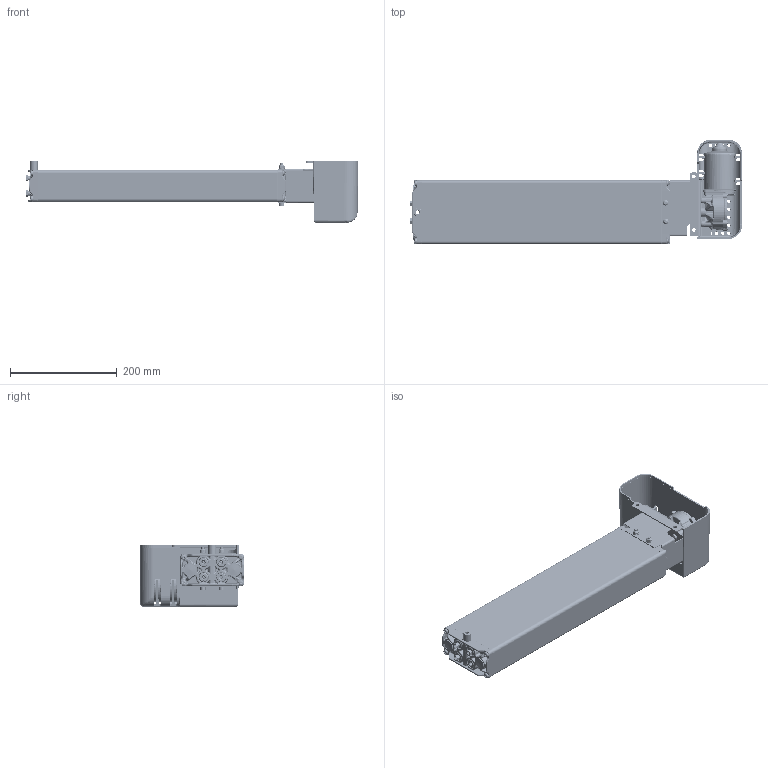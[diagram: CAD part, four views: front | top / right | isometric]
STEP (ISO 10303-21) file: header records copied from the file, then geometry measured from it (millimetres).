
FILE_DESCRIPTION(/* description */ ('Unknown'),/* implementation_level */ '2;1');
FILE_NAME(/* name */ '3X2.20023 Pumpe PB 3830 W mit Antrieb',/* time_stamp */ '2016-10-07T16:17:22+02:00',/* author */ ('Unknown'),/* organization */ ('Unknown'),/* preprocessor_version */ 'ST-DEVELOPER v16.7',/* originating_system */ 'DEX',/* authorisation */ $);
FILE_SCHEMA (('AUTOMOTIVE_DESIGN {1 0 10303 214 3 1 1}'));
Products named in the file (32): 102.20023; 115.00033; 125.00045; 115.00008; 142.00021; 125.00021; 142.00013; 125.00143; 115.00140; 126.00006; 122.00040; 119.00043; 126.00005; 127.00201; 127.00200; 127.00023; 124.00090; Getriebe; Ring; Schraube; Stator; Abdeckplatte; Antriebswelle; 128.00051; 123.00031; 142.00018; 142.00019; 142.00025; 142.00131; 123.00029; 142.00057; 142.00110
Assembly tree (47 placements, depth 3):
  102.20023
    115.00033  x3
      125.00045
      115.00008
      142.00021
      125.00021
    142.00013  x8
    125.00045
    125.00143
    115.00140
      126.00006
      122.00040
    119.00043
    126.00005
    127.00201
      127.00200
      127.00023
    124.00090
      Getriebe
      Ring
      Schraube
      Stator
      Abdeckplatte
      Antriebswelle
    128.00051
    123.00031
    142.00018  x2
    142.00019  x2
    142.00025  x2
    142.00131  x3
    123.00029
    142.00057
    142.00110  x2
Bounding box: 623.42 x 196.04 x 115.45 mm (x, y, z)
Volume: 1112341 mm3; surface area: 714339.6 mm2
Topology: 46 solids, 48 shells, 4756 faces, 12057 edges, 7303 vertices
Faces by surface type: bspline 1367, plane 1288, cylinder 1258, cone 479, torus 265, sphere 99
Full cylindrical faces by diameter (mm): 2.5 x4, 3.2 x4, 3.5 x4, 3.9 x5, 4.1 x3, 4.2 x6, 4.4 x5, 4.5 x1, 4.917 x2, 5 x8, 5.5 x5, 6 x6, 6.4 x2, 6.8 x5, 6.917 x8, 7 x1, 8 x8, 8.5 x6, 9 x2, 9.5 x1, 9.8 x8, 10 x8, 10.3 x1, 10.32 x1, 10.4 x1, 11 x5, 14 x2, 14.4 x4, 15 x1, 15.8 x2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
Entity records: 202744 total; most frequent: CARTESIAN_POINT 105890, ORIENTED_EDGE 19228, DIRECTION 14239, EDGE_CURVE 9614, VERTEX_POINT 6195, AXIS2_PLACEMENT_3D 5608, FACE_BOUND 4601, EDGE_LOOP 4596
